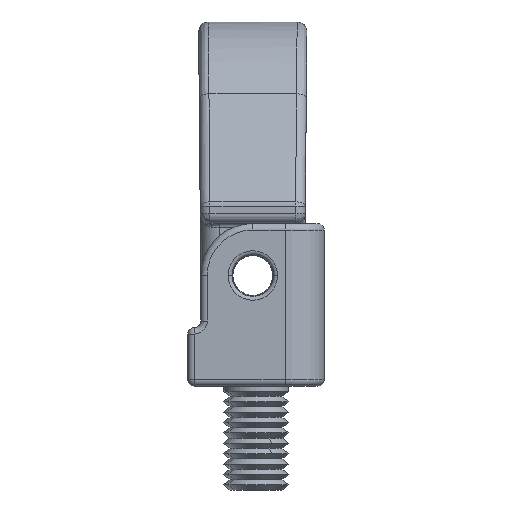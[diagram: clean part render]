
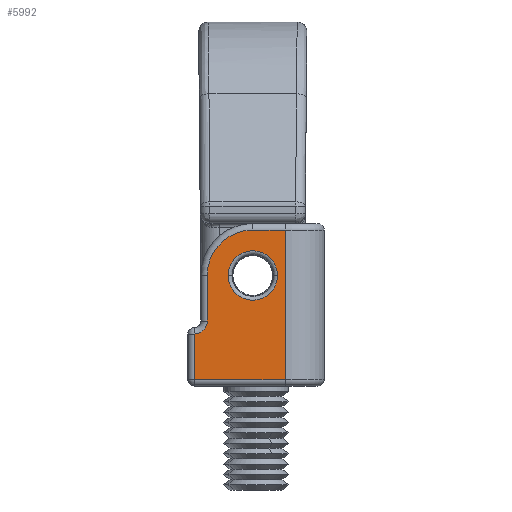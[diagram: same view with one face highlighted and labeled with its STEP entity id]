
A CAD part, front view. The second image highlights one B-rep face of the part: STEP entity #5992.
In plain terms, the highlighted planar face has unit normal (0, -1, 0).
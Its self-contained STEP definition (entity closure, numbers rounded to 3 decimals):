
#1996 = CARTESIAN_POINT ( 'NONE',  ( -10., -9.43, 0.5 ) ) ;
#2007 = CARTESIAN_POINT ( 'NONE',  ( -9., -9.43, 4.5 ) ) ;
#2011 = LINE ( 'NONE', #2007, #28979 ) ;
#2012 = CARTESIAN_POINT ( 'NONE',  ( -5.5, -9.43, 8.5 ) ) ;
#2013 = DIRECTION ( 'NONE',  ( 0., 1., 0. ) ) ;
#2014 = DIRECTION ( 'NONE',  ( 1., 0., 0. ) ) ;
#2015 = LINE ( 'NONE', #1996, #28984 ) ;
#2016 = DIRECTION ( 'NONE',  ( 0., 0., -1. ) ) ;
#2018 = CARTESIAN_POINT ( 'NONE',  ( -10., -9.43, 5. ) ) ;
#2019 = DIRECTION ( 'NONE',  ( 0., 1., 0. ) ) ;
#2020 = DIRECTION ( 'NONE',  ( 1., 0., 0. ) ) ;
#2021 = DIRECTION ( 'NONE',  ( 0., 0., -1. ) ) ;
#2023 = LINE ( 'NONE', #2024, #28986 ) ;
#2024 = CARTESIAN_POINT ( 'NONE',  ( -3., -9.43, 0.5 ) ) ;
#2026 = DIRECTION ( 'NONE',  ( 1., 0., 0. ) ) ;
#2027 = LINE ( 'NONE', #2028, #28987 ) ;
#2028 = CARTESIAN_POINT ( 'NONE',  ( -3., -9.43, 12. ) ) ;
#2030 = DIRECTION ( 'NONE',  ( 0., 0., 1. ) ) ;
#2031 = LINE ( 'NONE', #2033, #28988 ) ;
#2033 = CARTESIAN_POINT ( 'NONE',  ( -5.5, -9.43, 12. ) ) ;
#2034 = DIRECTION ( 'NONE',  ( -1., 0., 0. ) ) ;
#2038 = CARTESIAN_POINT ( 'NONE',  ( -5.5, -9.43, 8.5 ) ) ;
#2040 = DIRECTION ( 'NONE',  ( 0., -1., 0. ) ) ;
#2041 = DIRECTION ( 'NONE',  ( 1., 0., 0. ) ) ;
#2622 = CIRCLE ( 'NONE', #2627, 1.9 ) ;
#2627 = AXIS2_PLACEMENT_3D ( 'NONE', #3124, #3125, #3126 ) ;
#3124 = CARTESIAN_POINT ( 'NONE',  ( -5.5, -9.43, 8.5 ) ) ;
#3125 = DIRECTION ( 'NONE',  ( 0., 1., 0. ) ) ;
#3126 = DIRECTION ( 'NONE',  ( 1., 0., 0. ) ) ;
#5992 = ADVANCED_FACE ( 'NONE', ( #15219, #15221 ), #15222, .T. ) ;
#9794 = VERTEX_POINT ( 'NONE', #17290 ) ;
#9803 = VERTEX_POINT ( 'NONE', #17299 ) ;
#9807 = VERTEX_POINT ( 'NONE', #17303 ) ;
#9808 = VERTEX_POINT ( 'NONE', #17304 ) ;
#9809 = VERTEX_POINT ( 'NONE', #17305 ) ;
#9810 = VERTEX_POINT ( 'NONE', #17306 ) ;
#9811 = VERTEX_POINT ( 'NONE', #17307 ) ;
#10370 = VERTEX_POINT ( 'NONE', #17437 ) ;
#10757 = VERTEX_POINT ( 'NONE', #17497 ) ;
#10785 = ORIENTED_EDGE ( 'NONE', *, *, #18598, .T. ) ;
#10789 = ORIENTED_EDGE ( 'NONE', *, *, #18593, .T. ) ;
#10791 = ORIENTED_EDGE ( 'NONE', *, *, #18730, .T. ) ;
#10792 = ORIENTED_EDGE ( 'NONE', *, *, #18592, .T. ) ;
#10799 = ORIENTED_EDGE ( 'NONE', *, *, #18597, .T. ) ;
#10800 = ORIENTED_EDGE ( 'NONE', *, *, #18596, .T. ) ;
#10802 = ORIENTED_EDGE ( 'NONE', *, *, #18594, .T. ) ;
#10803 = ORIENTED_EDGE ( 'NONE', *, *, #18595, .T. ) ;
#10814 = ORIENTED_EDGE ( 'NONE', *, *, #18599, .T. ) ;
#13815 = AXIS2_PLACEMENT_3D ( 'NONE', #15231, #15232, #15233 ) ;
#15219 = FACE_BOUND ( 'NONE', #25679, .T. ) ;
#15221 = FACE_OUTER_BOUND ( 'NONE', #25688, .T. ) ;
#15222 = PLANE ( 'NONE',  #13815 ) ;
#15231 = CARTESIAN_POINT ( 'NONE',  ( -5.5, -9.43, 8.5 ) ) ;
#15232 = DIRECTION ( 'NONE',  ( 0., -1., 0. ) ) ;
#15233 = DIRECTION ( 'NONE',  ( 1., 0., 0. ) ) ;
#17290 = CARTESIAN_POINT ( 'NONE',  ( -9., -9.43, 5. ) ) ;
#17299 = CARTESIAN_POINT ( 'NONE',  ( -9., -9.43, 8.5 ) ) ;
#17303 = CARTESIAN_POINT ( 'NONE',  ( -10., -9.43, 4. ) ) ;
#17304 = CARTESIAN_POINT ( 'NONE',  ( -10., -9.43, 0.5 ) ) ;
#17305 = CARTESIAN_POINT ( 'NONE',  ( -3., -9.43, 0.5 ) ) ;
#17306 = CARTESIAN_POINT ( 'NONE',  ( -3., -9.43, 12. ) ) ;
#17307 = CARTESIAN_POINT ( 'NONE',  ( -5.5, -9.43, 12. ) ) ;
#17437 = CARTESIAN_POINT ( 'NONE',  ( -7.4, -9.43, 8.5 ) ) ;
#17497 = CARTESIAN_POINT ( 'NONE',  ( -3.6, -9.43, 8.5 ) ) ;
#18592 = EDGE_CURVE ( 'NONE', #10757, #10370, #28971, .T. ) ;
#18593 = EDGE_CURVE ( 'NONE', #9803, #9794, #2011, .T. ) ;
#18594 = EDGE_CURVE ( 'NONE', #9794, #9807, #28981, .T. ) ;
#18595 = EDGE_CURVE ( 'NONE', #9807, #9808, #2015, .T. ) ;
#18596 = EDGE_CURVE ( 'NONE', #9808, #9809, #2023, .T. ) ;
#18597 = EDGE_CURVE ( 'NONE', #9809, #9810, #2027, .T. ) ;
#18598 = EDGE_CURVE ( 'NONE', #9810, #9811, #2031, .T. ) ;
#18599 = EDGE_CURVE ( 'NONE', #9811, #9803, #28989, .T. ) ;
#18730 = EDGE_CURVE ( 'NONE', #10370, #10757, #2622, .T. ) ;
#25679 = EDGE_LOOP ( 'NONE', ( #10792, #10791 ) ) ;
#25688 = EDGE_LOOP ( 'NONE', ( #10789, #10802, #10803, #10800, #10799, #10785, #10814 ) ) ;
#28971 = CIRCLE ( 'NONE', #28982, 1.9 ) ;
#28979 = VECTOR ( 'NONE', #2016, 1000. ) ;
#28981 = CIRCLE ( 'NONE', #28985, 1. ) ;
#28982 = AXIS2_PLACEMENT_3D ( 'NONE', #2012, #2013, #2014 ) ;
#28984 = VECTOR ( 'NONE', #2021, 1000. ) ;
#28985 = AXIS2_PLACEMENT_3D ( 'NONE', #2018, #2019, #2020 ) ;
#28986 = VECTOR ( 'NONE', #2026, 1000. ) ;
#28987 = VECTOR ( 'NONE', #2030, 1000. ) ;
#28988 = VECTOR ( 'NONE', #2034, 1000. ) ;
#28989 = CIRCLE ( 'NONE', #28991, 3.5 ) ;
#28991 = AXIS2_PLACEMENT_3D ( 'NONE', #2038, #2040, #2041 ) ;
